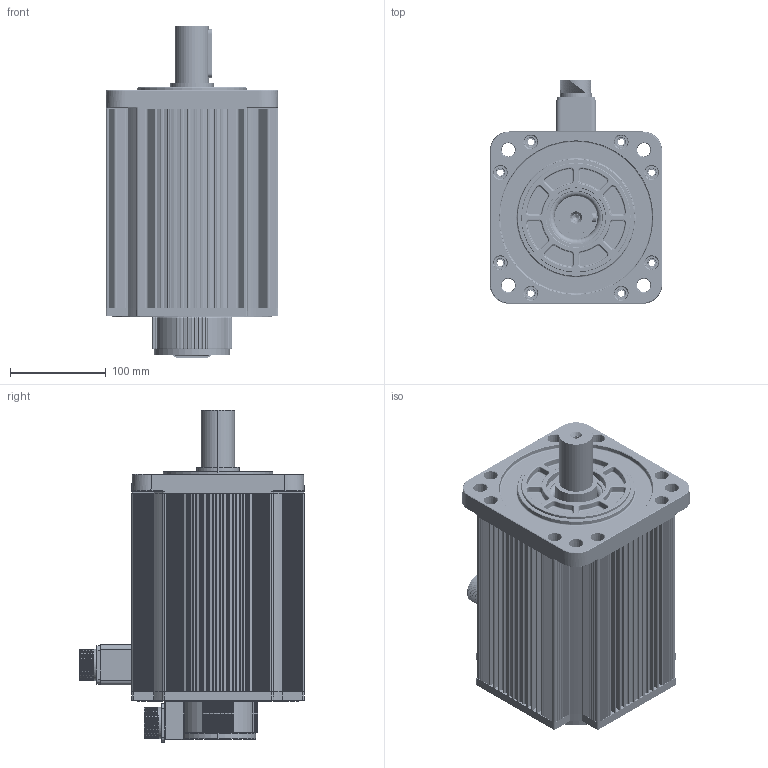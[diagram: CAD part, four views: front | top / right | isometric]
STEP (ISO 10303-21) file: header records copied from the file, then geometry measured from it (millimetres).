
FILE_DESCRIPTION (( 'STEP AP203' ), '1' );
FILE_NAME ('180ÐÂ¿îµç»ú.STEP', '2024-08-19T05:14:15', ( 'MicroSoft' ), ( 'MicroSoft' ), 'SwSTEP 2.0', 'SolidWorks 2020', '' );
FILE_SCHEMA (( 'CONFIG_CONTROL_DESIGN' ));
Length unit declared in the file: millimetre
Products named in the file (14): Z130A-01-03(编码器后罩壳封盖）; 180綴粣創; 180呿蹋晤鎢ん欶褲; 180ヶ粣創; 180后端盖 新款 1_制动后盖1; Z130A-01-02(编码器后罩壳）; Z航插15芯（公头电机端）28; Z航空插头-4芯（公头电机端）32; Z180-01-01A(180电机轴-锥轴全系列)-3000_4.5KW; 180-X陔遴儂褲_180-5.5陔遴; 180ヶ傷裔陔遴 1; 180堤盄碟; 180 平键（14-9-91）; 180陔遴萇儂
Assembly tree (13 placements, depth 3):
  180陔遴萇儂
    180-X陔遴儂褲_180-5.5陔遴
    180ヶ傷裔陔遴 1
    180后端盖 新款 1_制动后盖1
    Z180-01-01A(180电机轴-锥轴全系列)-3000_4.5KW
    180ヶ粣創
    180綴粣創
    180堤盄碟
    Z航空插头-4芯（公头电机端）32
    Z航插15芯（公头电机端）28
    180 平键（14-9-91）
    180呿蹋晤鎢ん欶褲
      Z130A-01-02(编码器后罩壳）
    Z130A-01-03(编码器后罩壳封盖）
Bounding box: 180.31 x 234.51 x 346.5 mm (x, y, z)
Volume: 2372549.6 mm3; surface area: 726181.8 mm2
Topology: 12 solids, 12 shells, 4865 faces, 12547 edges, 7741 vertices
Faces by surface type: cylinder 1847, plane 1350, bspline 688, torus 506, cone 292, sphere 182
Entity records: 180241 total; most frequent: CARTESIAN_POINT 62863, ORIENTED_EDGE 24742, DIRECTION 24387, EDGE_CURVE 12371, AXIS2_PLACEMENT_3D 9429, VERTEX_POINT 7707, VECTOR 5529, LINE 5529
